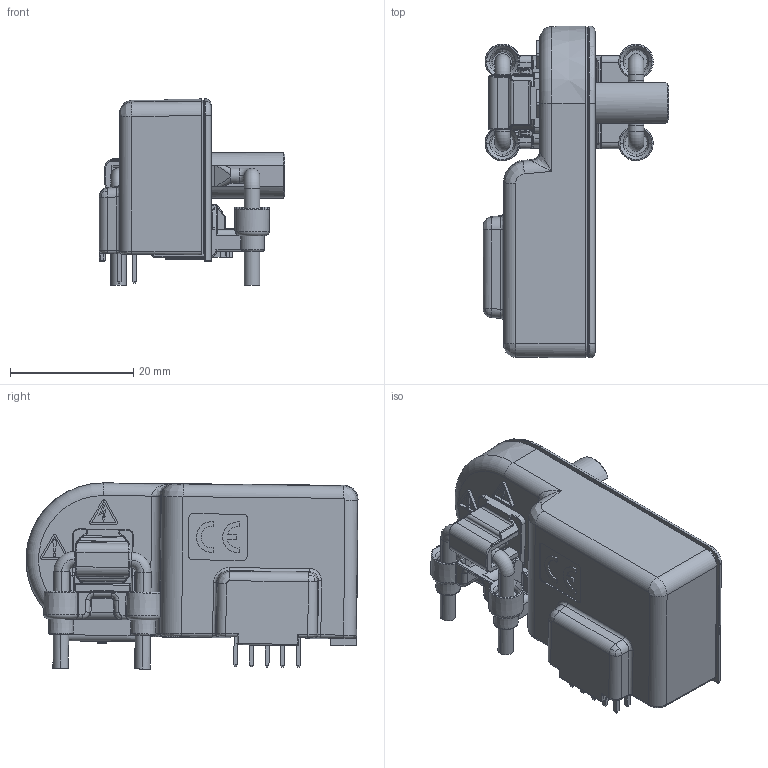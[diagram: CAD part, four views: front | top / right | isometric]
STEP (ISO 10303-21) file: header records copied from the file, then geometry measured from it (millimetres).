
FILE_DESCRIPTION(('Creo Elements/Direct Modeling STEP Export'),'2;1');
FILE_NAME('BBox_08042020.stp','2020-04-08T14:26:05',(''),(''),'Creo Elements/Direct Modeling STEP processor for AP214 (Solid Model)','Creo Elements/Direct Modeling 20.1 10-Mar-2018 (C) Parametric Technology GmbH','');
FILE_SCHEMA(('AUTOMOTIVE_DESIGN { 1 0 10303 214 1 1 1 1 }'));
Products named in the file (2): BBox_A_08042020
Assembly tree (1 placements, depth 2):
  BBox_A_08042020
    BBox_A_08042020
Bounding box: 30.2 x 53.95 x 30.26 mm (x, y, z)
Volume: 18469.7 mm3; surface area: 8006.6 mm2
Topology: 1 solids, 1 shells, 1217 faces, 3109 edges, 1894 vertices
Faces by surface type: plane 420, cylinder 357, bspline 323, torus 80, cone 31, sphere 6
Entity records: 77623 total; most frequent: CARTESIAN_POINT 51379, ORIENTED_EDGE 6176, DIRECTION 3894, EDGE_CURVE 3088, VERTEX_POINT 1894, VECTOR 1304, LINE 1304, AXIS2_PLACEMENT_3D 1295
